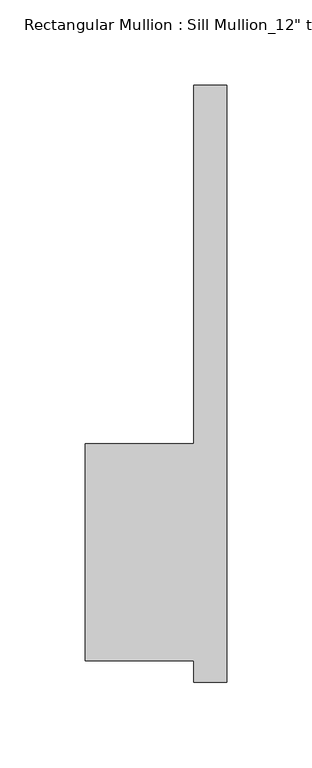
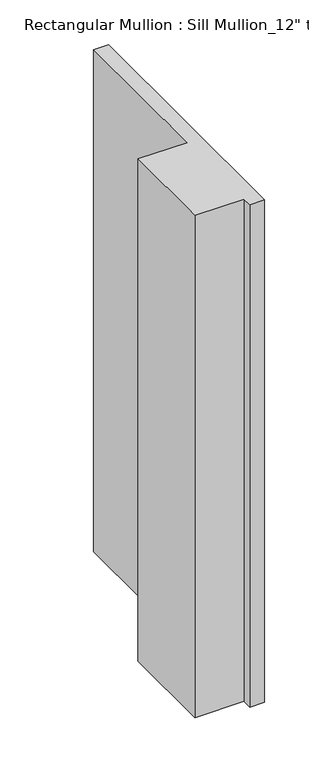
"""IFC4 building model written with IfcOpenShell, lengths in millimetres: member geometry."""

from ifc_helpers import new_model, si_unit, frame, origin, place, context, project, spatial, polyline, outline, extrude, source, transform, mapped, element, save


def member_22f5c37b(model_context):
    return source(origin(), model_context, "Body", "SweptSolid", [
        extrude(outline(polyline([(-82.55, 50.8), (-19.05, 50.8), (-19.05, 260.35), (0.0, 260.35), (0.0, -88.9), (-19.05, -88.9), (-19.05, -76.2), (-82.55, -76.2), (-82.55, 50.8)])), frame((0.0, 0.0, -685.8), z_axis=(0.0, 0.0, 1.0), x_axis=(1.0, 0.0, 0.0)), (0.0, 0.0, 1.0), 685.8),
    ])


if __name__ == "__main__":
    model = new_model("IFC4")
    model_context = context("Model", 3, world=origin())
    ifc_project = project(units=[si_unit("LENGTHUNIT", "METRE", prefix="MILLI")], contexts=[model_context])
    site = spatial("IfcSite", under=ifc_project)
    building = spatial("IfcBuilding", under=site)
    placement = place(None, origin())
    member_shape = member_22f5c37b(model_context)
    element("IfcMember", 1, ObjectType="Rectangular Mullion : Sill Mullion_12\" thick wall", at=placement, inside=building, context=model_context, shape_type="MappedRepresentation", body=[
        mapped(member_shape, transform((0.0, 0.0, 0.0), x_axis=(1.0, 0.0, 0.0), y_axis=(0.0, 1.0, 0.0), z_axis=(0.0, 0.0, 1.0))),
    ])
    save(model, "model.ifc")
